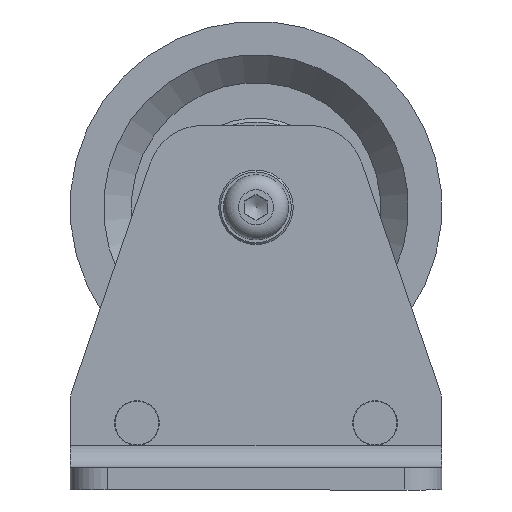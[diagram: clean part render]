
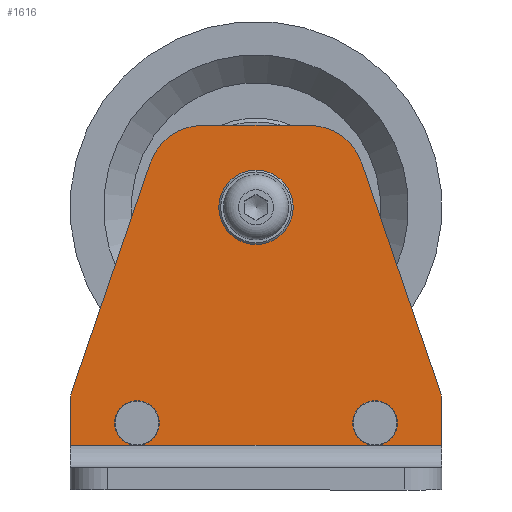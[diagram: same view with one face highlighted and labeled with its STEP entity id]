
A CAD part, front view. The second image highlights one B-rep face of the part: STEP entity #1616.
In plain terms, the highlighted planar face has unit normal (0, -1, 0) as drawn and (0, 0, 1) by its records, which use the part's own axes.
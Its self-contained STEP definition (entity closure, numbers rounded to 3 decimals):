
#121=FACE_BOUND('',#307,.T.);
#155=PLANE('',#1929);
#211=FACE_OUTER_BOUND('',#306,.T.);
#306=EDGE_LOOP('',(#1254,#1255,#1256,#1257,#1258,#1259,#1260,#1261,#1262,
#1263,#1264,#1265,#1266,#1267));
#307=EDGE_LOOP('',(#1268));
#418=LINE('',#2789,#516);
#419=LINE('',#2791,#517);
#420=LINE('',#2792,#518);
#423=LINE('',#2798,#521);
#431=LINE('',#2836,#529);
#435=LINE('',#2845,#533);
#438=LINE('',#2852,#536);
#439=LINE('',#2854,#537);
#516=VECTOR('',#2216,10.);
#517=VECTOR('',#2217,10.);
#518=VECTOR('',#2218,10.);
#521=VECTOR('',#2223,10.);
#529=VECTOR('',#2265,10.);
#533=VECTOR('',#2275,10.);
#536=VECTOR('',#2284,10.);
#537=VECTOR('',#2287,10.);
#602=CIRCLE('',#1914,6.);
#603=CIRCLE('',#1915,6.);
#604=CIRCLE('',#1917,6.);
#605=CIRCLE('',#1918,6.);
#606=CIRCLE('',#1920,5.2);
#607=CIRCLE('',#1923,15.);
#608=CIRCLE('',#1926,15.);
#737=VERTEX_POINT('',#2779);
#738=VERTEX_POINT('',#2783);
#739=VERTEX_POINT('',#2788);
#740=VERTEX_POINT('',#2790);
#742=VERTEX_POINT('',#2796);
#751=VERTEX_POINT('',#2820);
#752=VERTEX_POINT('',#2825);
#753=VERTEX_POINT('',#2830);
#754=VERTEX_POINT('',#2834);
#755=VERTEX_POINT('',#2835);
#756=VERTEX_POINT('',#2840);
#757=VERTEX_POINT('',#2844);
#758=VERTEX_POINT('',#2848);
#915=EDGE_CURVE('',#739,#738,#418,.T.);
#916=EDGE_CURVE('',#740,#739,#419,.T.);
#917=EDGE_CURVE('',#737,#740,#420,.T.);
#920=EDGE_CURVE('',#742,#738,#423,.T.);
#933=EDGE_CURVE('',#739,#751,#602,.T.);
#934=EDGE_CURVE('',#751,#739,#603,.T.);
#936=EDGE_CURVE('',#740,#752,#604,.T.);
#937=EDGE_CURVE('',#752,#740,#605,.T.);
#939=EDGE_CURVE('',#753,#753,#606,.T.);
#940=EDGE_CURVE('',#754,#755,#431,.T.);
#943=EDGE_CURVE('',#755,#756,#607,.T.);
#945=EDGE_CURVE('',#756,#757,#435,.T.);
#947=EDGE_CURVE('',#757,#758,#608,.T.);
#949=EDGE_CURVE('',#758,#742,#438,.T.);
#950=EDGE_CURVE('',#737,#754,#439,.T.);
#1254=ORIENTED_EDGE('',*,*,#915,.T.);
#1255=ORIENTED_EDGE('',*,*,#920,.F.);
#1256=ORIENTED_EDGE('',*,*,#949,.F.);
#1257=ORIENTED_EDGE('',*,*,#947,.F.);
#1258=ORIENTED_EDGE('',*,*,#945,.F.);
#1259=ORIENTED_EDGE('',*,*,#943,.F.);
#1260=ORIENTED_EDGE('',*,*,#940,.F.);
#1261=ORIENTED_EDGE('',*,*,#950,.F.);
#1262=ORIENTED_EDGE('',*,*,#917,.T.);
#1263=ORIENTED_EDGE('',*,*,#936,.T.);
#1264=ORIENTED_EDGE('',*,*,#937,.T.);
#1265=ORIENTED_EDGE('',*,*,#916,.T.);
#1266=ORIENTED_EDGE('',*,*,#933,.T.);
#1267=ORIENTED_EDGE('',*,*,#934,.T.);
#1268=ORIENTED_EDGE('',*,*,#939,.T.);
#1616=ADVANCED_FACE('',(#211,#121),#155,.T.);
#1914=AXIS2_PLACEMENT_3D('',#2822,#2247,#2248);
#1915=AXIS2_PLACEMENT_3D('',#2823,#2249,#2250);
#1917=AXIS2_PLACEMENT_3D('',#2827,#2254,#2255);
#1918=AXIS2_PLACEMENT_3D('',#2828,#2256,#2257);
#1920=AXIS2_PLACEMENT_3D('',#2832,#2261,#2262);
#1923=AXIS2_PLACEMENT_3D('',#2841,#2270,#2271);
#1926=AXIS2_PLACEMENT_3D('',#2849,#2279,#2280);
#1929=AXIS2_PLACEMENT_3D('',#2855,#2288,#2289);
#2216=DIRECTION('',(1.,0.,0.));
#2217=DIRECTION('',(1.,0.,0.));
#2218=DIRECTION('',(1.,0.,0.));
#2223=DIRECTION('',(0.,-1.,0.));
#2247=DIRECTION('center_axis',(0.,0.,-1.));
#2248=DIRECTION('ref_axis',(-1.,0.,0.));
#2249=DIRECTION('center_axis',(0.,0.,-1.));
#2250=DIRECTION('ref_axis',(-1.,0.,0.));
#2254=DIRECTION('center_axis',(0.,0.,-1.));
#2255=DIRECTION('ref_axis',(-1.,0.,0.));
#2256=DIRECTION('center_axis',(0.,0.,-1.));
#2257=DIRECTION('ref_axis',(-1.,0.,0.));
#2261=DIRECTION('center_axis',(0.,0.,-1.));
#2262=DIRECTION('ref_axis',(-1.,0.,0.));
#2265=DIRECTION('',(0.324,0.946,0.));
#2270=DIRECTION('center_axis',(0.,0.,-1.));
#2271=DIRECTION('ref_axis',(0.,1.,0.));
#2275=DIRECTION('',(1.,0.,0.));
#2279=DIRECTION('center_axis',(0.,0.,-1.));
#2280=DIRECTION('ref_axis',(0.946,0.324,0.));
#2284=DIRECTION('',(0.324,-0.946,0.));
#2287=DIRECTION('',(0.,1.,0.));
#2288=DIRECTION('center_axis',(0.,0.,1.));
#2289=DIRECTION('ref_axis',(1.,0.,0.));
#2779=CARTESIAN_POINT('',(-50.,12.,6.));
#2783=CARTESIAN_POINT('',(50.,12.,6.));
#2788=CARTESIAN_POINT('',(32.,12.,6.));
#2789=CARTESIAN_POINT('',(25.,12.,6.));
#2790=CARTESIAN_POINT('',(-32.,12.,6.));
#2791=CARTESIAN_POINT('',(25.,12.,6.));
#2792=CARTESIAN_POINT('',(25.,12.,6.));
#2796=CARTESIAN_POINT('',(50.,25.,6.));
#2798=CARTESIAN_POINT('',(50.,0.,6.));
#2820=CARTESIAN_POINT('',(38.,18.,6.));
#2822=CARTESIAN_POINT('Origin',(32.,18.,6.));
#2823=CARTESIAN_POINT('Origin',(32.,18.,6.));
#2825=CARTESIAN_POINT('',(-26.,18.,6.));
#2827=CARTESIAN_POINT('Origin',(-32.,18.,6.));
#2828=CARTESIAN_POINT('Origin',(-32.,18.,6.));
#2830=CARTESIAN_POINT('',(5.2,76.,6.));
#2832=CARTESIAN_POINT('Origin',(0.,76.,6.));
#2834=CARTESIAN_POINT('',(-50.,25.,6.));
#2835=CARTESIAN_POINT('',(-28.473,87.86,6.));
#2836=CARTESIAN_POINT('',(-28.473,87.86,6.));
#2840=CARTESIAN_POINT('',(-14.282,98.,6.));
#2841=CARTESIAN_POINT('Origin',(-14.282,83.,6.));
#2844=CARTESIAN_POINT('',(14.282,98.,6.));
#2845=CARTESIAN_POINT('',(14.282,98.,6.));
#2848=CARTESIAN_POINT('',(28.473,87.86,6.));
#2849=CARTESIAN_POINT('Origin',(14.282,83.,6.));
#2852=CARTESIAN_POINT('',(50.,25.,6.));
#2854=CARTESIAN_POINT('',(-50.,25.,6.));
#2855=CARTESIAN_POINT('Origin',(0.,41.393,6.));
